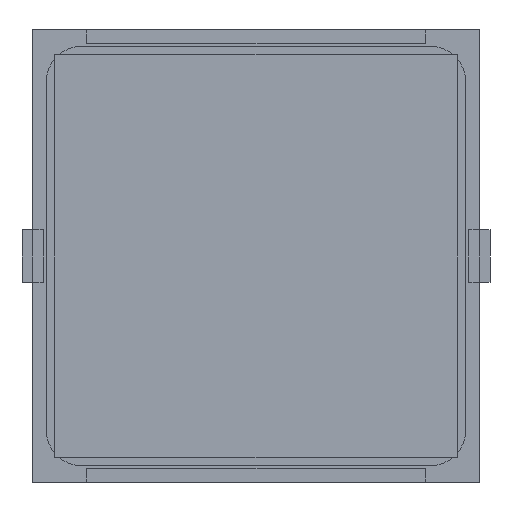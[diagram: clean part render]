
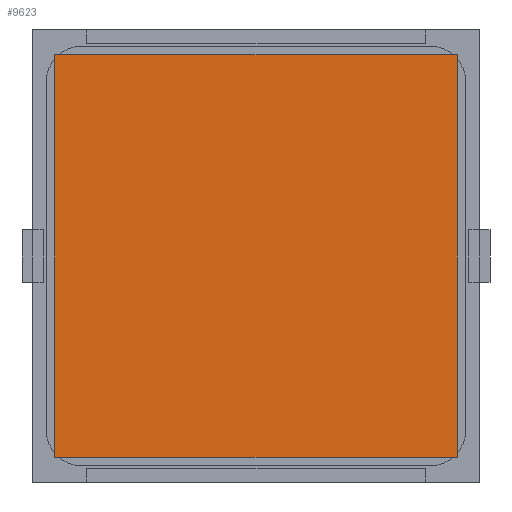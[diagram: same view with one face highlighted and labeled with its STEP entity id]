
A CAD part, front view. The second image highlights one B-rep face of the part: STEP entity #9623.
In plain terms, the highlighted planar face has unit normal (0, -1, 0).
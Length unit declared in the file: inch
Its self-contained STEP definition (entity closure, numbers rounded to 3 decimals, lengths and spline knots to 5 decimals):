
#213 = ORIENTED_EDGE ( 'NONE', *, *, #6265, .F. ) ;
#542 = LINE ( 'NONE', #7082, #5350 ) ;
#1071 = LINE ( 'NONE', #4795, #9604 ) ;
#1578 = PLANE ( 'NONE',  #2448 ) ;
#1758 = DIRECTION ( 'NONE',  ( 0., 0., 1. ) ) ;
#1856 = DIRECTION ( 'NONE',  ( 0., 0., -1. ) ) ;
#1867 = CARTESIAN_POINT ( 'NONE',  ( -0.74803, -0.005, 0.74803 ) ) ;
#2135 = CARTESIAN_POINT ( 'NONE',  ( 0.74803, -0.005, -0.74803 ) ) ;
#2303 = EDGE_CURVE ( 'NONE', #9627, #8556, #1071, .T. ) ;
#2448 = AXIS2_PLACEMENT_3D ( 'NONE', #1867, #3751, #5512 ) ;
#2790 = LINE ( 'NONE', #10064, #10397 ) ;
#3262 = LINE ( 'NONE', #10656, #9238 ) ;
#3397 = FACE_OUTER_BOUND ( 'NONE', #9669, .T. ) ;
#3751 = DIRECTION ( 'NONE',  ( 0., 1., 0. ) ) ;
#4452 = ORIENTED_EDGE ( 'NONE', *, *, #2303, .F. ) ;
#4795 = CARTESIAN_POINT ( 'NONE',  ( -0.74803, -0.005, 0.74803 ) ) ;
#5339 = VERTEX_POINT ( 'NONE', #2135 ) ;
#5350 = VECTOR ( 'NONE', #9959, 39.37008 ) ;
#5512 = DIRECTION ( 'NONE',  ( 0., 0., 1. ) ) ;
#6238 = ORIENTED_EDGE ( 'NONE', *, *, #10076, .F. ) ;
#6265 = EDGE_CURVE ( 'NONE', #6918, #9627, #2790, .T. ) ;
#6918 = VERTEX_POINT ( 'NONE', #9931 ) ;
#7082 = CARTESIAN_POINT ( 'NONE',  ( -0.74803, -0.005, -0.74803 ) ) ;
#7574 = CARTESIAN_POINT ( 'NONE',  ( -0.74803, -0.005, 0.74803 ) ) ;
#8225 = CARTESIAN_POINT ( 'NONE',  ( 0.74803, -0.005, 0.74803 ) ) ;
#8247 = ORIENTED_EDGE ( 'NONE', *, *, #10517, .F. ) ;
#8556 = VERTEX_POINT ( 'NONE', #8225 ) ;
#9238 = VECTOR ( 'NONE', #1856, 39.37008 ) ;
#9556 = DIRECTION ( 'NONE',  ( 1., 0., 0. ) ) ;
#9604 = VECTOR ( 'NONE', #9556, 39.37008 ) ;
#9623 = ADVANCED_FACE ( 'NONE', ( #3397 ), #1578, .F. ) ;
#9627 = VERTEX_POINT ( 'NONE', #7574 ) ;
#9669 = EDGE_LOOP ( 'NONE', ( #213, #6238, #8247, #4452 ) ) ;
#9931 = CARTESIAN_POINT ( 'NONE',  ( -0.74803, -0.005, -0.74803 ) ) ;
#9959 = DIRECTION ( 'NONE',  ( -1., 0., 0. ) ) ;
#10064 = CARTESIAN_POINT ( 'NONE',  ( -0.74803, -0.005, -0.74803 ) ) ;
#10076 = EDGE_CURVE ( 'NONE', #5339, #6918, #542, .T. ) ;
#10397 = VECTOR ( 'NONE', #1758, 39.37008 ) ;
#10517 = EDGE_CURVE ( 'NONE', #8556, #5339, #3262, .T. ) ;
#10656 = CARTESIAN_POINT ( 'NONE',  ( 0.74803, -0.005, -0.74803 ) ) ;
